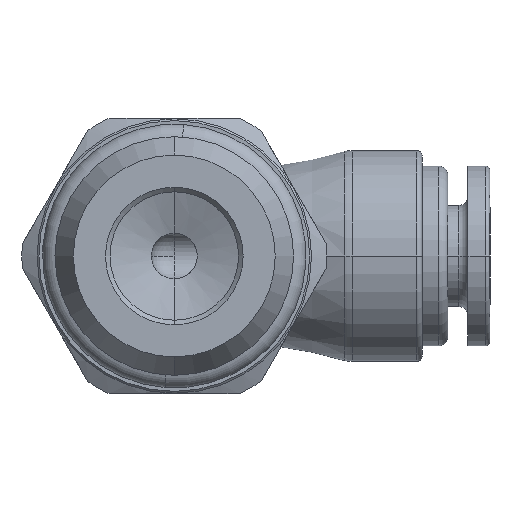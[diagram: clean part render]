
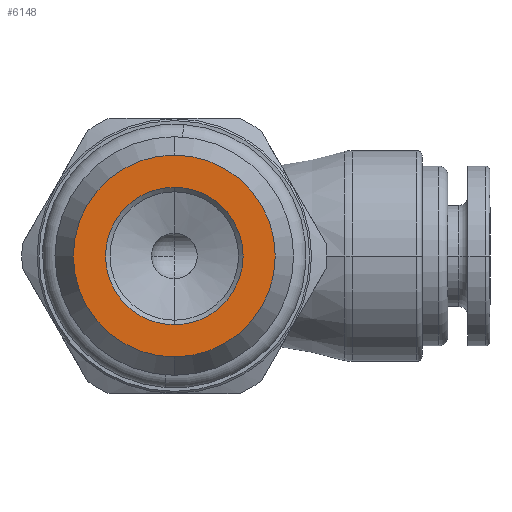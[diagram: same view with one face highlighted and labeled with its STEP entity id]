
A CAD part, front view. The second image highlights one B-rep face of the part: STEP entity #6148.
In plain terms, the highlighted planar face has unit normal (0, -1, 0).
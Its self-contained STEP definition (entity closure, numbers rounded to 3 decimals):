
#15 = ORIENTED_EDGE ( 'NONE', *, *, #380, .F. ) ;
#43 = CARTESIAN_POINT ( 'NONE',  ( 0., -28.5, 5.5 ) ) ;
#195 = EDGE_CURVE ( 'NONE', #894, #4587, #5983, .T. ) ;
#219 = DIRECTION ( 'NONE',  ( 0., -1., 0. ) ) ;
#244 = PLANE ( 'NONE',  #5046 ) ;
#380 = EDGE_CURVE ( 'NONE', #1190, #2502, #4668, .T. ) ;
#419 = ORIENTED_EDGE ( 'NONE', *, *, #4881, .T. ) ;
#727 = DIRECTION ( 'NONE',  ( 0., -1., 0. ) ) ;
#768 = FACE_OUTER_BOUND ( 'NONE', #1930, .T. ) ;
#894 = VERTEX_POINT ( 'NONE', #43 ) ;
#1101 = CIRCLE ( 'NONE', #5169, 3.75 ) ;
#1158 = DIRECTION ( 'NONE',  ( 0., -1., 0. ) ) ;
#1190 = VERTEX_POINT ( 'NONE', #2478 ) ;
#1326 = FACE_BOUND ( 'NONE', #4615, .T. ) ;
#1650 = CARTESIAN_POINT ( 'NONE',  ( 0., -28.5, 0. ) ) ;
#1822 = DIRECTION ( 'NONE',  ( 0., 0., -1. ) ) ;
#1930 = EDGE_LOOP ( 'NONE', ( #3104, #419 ) ) ;
#2478 = CARTESIAN_POINT ( 'NONE',  ( 0., -28.5, 3.75 ) ) ;
#2502 = VERTEX_POINT ( 'NONE', #5722 ) ;
#3024 = CARTESIAN_POINT ( 'NONE',  ( 0., -28.5, 0. ) ) ;
#3104 = ORIENTED_EDGE ( 'NONE', *, *, #195, .T. ) ;
#3392 = CARTESIAN_POINT ( 'NONE',  ( 0., -28.5, 0. ) ) ;
#3574 = EDGE_CURVE ( 'NONE', #2502, #1190, #1101, .T. ) ;
#3884 = CARTESIAN_POINT ( 'NONE',  ( 0., -28.5, 0. ) ) ;
#3983 = DIRECTION ( 'NONE',  ( 0., -1., 0. ) ) ;
#4587 = VERTEX_POINT ( 'NONE', #4981 ) ;
#4615 = EDGE_LOOP ( 'NONE', ( #5857, #15 ) ) ;
#4668 = CIRCLE ( 'NONE', #5762, 3.75 ) ;
#4881 = EDGE_CURVE ( 'NONE', #4587, #894, #5201, .T. ) ;
#4973 = DIRECTION ( 'NONE',  ( 0., 0., -1. ) ) ;
#4981 = CARTESIAN_POINT ( 'NONE',  ( 0., -28.5, -5.5 ) ) ;
#5046 = AXIS2_PLACEMENT_3D ( 'NONE', #3024, #5193, #5733 ) ;
#5169 = AXIS2_PLACEMENT_3D ( 'NONE', #5570, #219, #6566 ) ;
#5193 = DIRECTION ( 'NONE',  ( 0., -1., 0. ) ) ;
#5201 = CIRCLE ( 'NONE', #6062, 5.5 ) ;
#5570 = CARTESIAN_POINT ( 'NONE',  ( 0., -28.5, 0. ) ) ;
#5722 = CARTESIAN_POINT ( 'NONE',  ( 0., -28.5, -3.75 ) ) ;
#5733 = DIRECTION ( 'NONE',  ( 0., 0., -1. ) ) ;
#5762 = AXIS2_PLACEMENT_3D ( 'NONE', #3392, #3983, #1822 ) ;
#5857 = ORIENTED_EDGE ( 'NONE', *, *, #3574, .F. ) ;
#5916 = DIRECTION ( 'NONE',  ( 0., 0., -1. ) ) ;
#5983 = CIRCLE ( 'NONE', #6870, 5.5 ) ;
#6062 = AXIS2_PLACEMENT_3D ( 'NONE', #3884, #727, #4973 ) ;
#6148 = ADVANCED_FACE ( 'NONE', ( #1326, #768 ), #244, .T. ) ;
#6566 = DIRECTION ( 'NONE',  ( 0., 0., -1. ) ) ;
#6870 = AXIS2_PLACEMENT_3D ( 'NONE', #1650, #1158, #5916 ) ;
